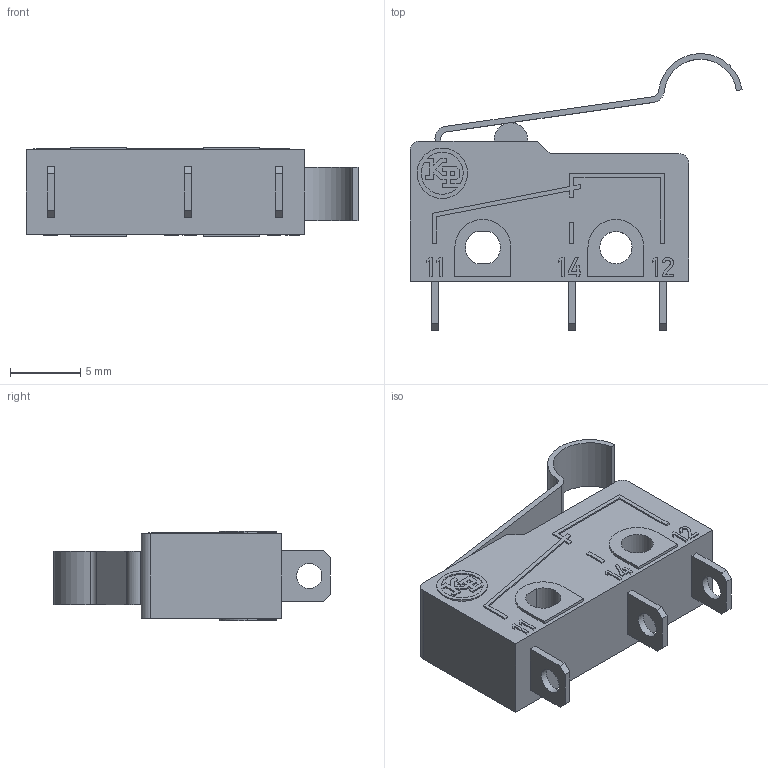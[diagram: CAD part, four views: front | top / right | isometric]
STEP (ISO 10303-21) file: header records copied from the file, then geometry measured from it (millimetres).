
FILE_DESCRIPTION(('Microrutor Subminiatura Alavanca c/ Roldana Simulada'),'2;1');
FILE_NAME('E:\WorkFolder\Bibl\3DWeb\kp_mm_mm$u1$s_step.stp','2022-08-17T09:40:50',('DIE'),('KAP Componentes Eletricos Ltda.'),'Autodesk Inventor 2011','Autodesk Inventor 2011','Direitos reservados. Proibido reproducao, cedencia ou revelacao de conteudo a terceiros, salvo com autorizacao.');
FILE_SCHEMA(('AUTOMOTIVE_DESIGN { 1 0 10303 214 1 1 1 1 }'));
Length unit declared in the file: millimetre
Products named in the file (1): Part2
Bounding box: 23.7 x 19.73 x 6.4 mm (x, y, z)
Volume: 1154.4 mm3; surface area: 1133.7 mm2
Topology: 1 solids, 1 shells, 251 faces, 667 edges, 445 vertices
Faces by surface type: plane 215, cylinder 36
Full cylindrical faces by diameter (mm): 1.8 x3, 2.3 x1, 3.6 x1
Entity records: 7971 total; most frequent: CARTESIAN_POINT 1357, ORIENTED_EDGE 1322, DIRECTION 1237, EDGE_CURVE 661, VECTOR 589, LINE 589, VERTEX_POINT 444, AXIS2_PLACEMENT_3D 324
